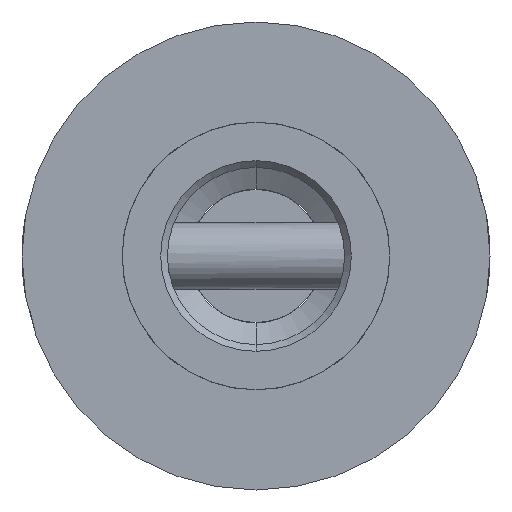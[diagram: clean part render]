
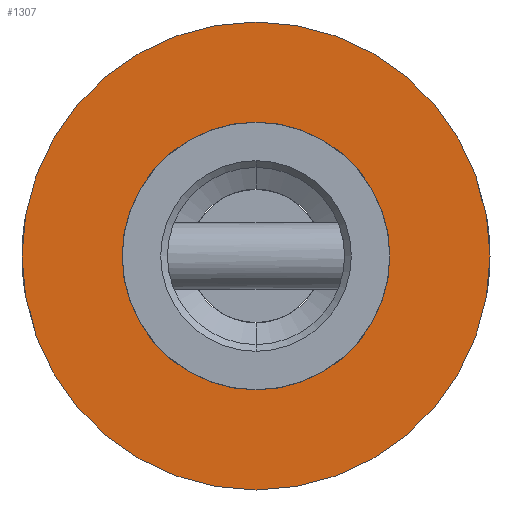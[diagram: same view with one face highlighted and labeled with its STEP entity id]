
A CAD part, front view. The second image highlights one B-rep face of the part: STEP entity #1307.
In plain terms, the highlighted planar face has unit normal (0, -1, 0).
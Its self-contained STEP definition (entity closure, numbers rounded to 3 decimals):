
#56 = ORIENTED_EDGE ( 'NONE', *, *, #1098, .T. ) ;
#95 = ORIENTED_EDGE ( 'NONE', *, *, #570, .T. ) ;
#262 = EDGE_LOOP ( 'NONE', ( #3117, #2212 ) ) ;
#570 = EDGE_CURVE ( 'NONE', #2315, #2578, #2762, .T. ) ;
#603 = DIRECTION ( 'NONE',  ( 0., 0., -1. ) ) ;
#619 = DIRECTION ( 'NONE',  ( 0., -1., 0. ) ) ;
#625 = CARTESIAN_POINT ( 'NONE',  ( 0., -400., 0. ) ) ;
#842 = DIRECTION ( 'NONE',  ( 0., -1., 0. ) ) ;
#864 = DIRECTION ( 'NONE',  ( 0., 0., -1. ) ) ;
#883 = PLANE ( 'NONE',  #1325 ) ;
#958 = CARTESIAN_POINT ( 'NONE',  ( 0., -400., 0. ) ) ;
#1008 = VERTEX_POINT ( 'NONE', #3125 ) ;
#1043 = AXIS2_PLACEMENT_3D ( 'NONE', #2603, #2595, #2574 ) ;
#1063 = CIRCLE ( 'NONE', #2382, 4.005 ) ;
#1098 = EDGE_CURVE ( 'NONE', #2578, #2315, #2643, .T. ) ;
#1161 = AXIS2_PLACEMENT_3D ( 'NONE', #625, #619, #603 ) ;
#1245 = FACE_OUTER_BOUND ( 'NONE', #3165, .T. ) ;
#1307 = ADVANCED_FACE ( 'NONE', ( #1980, #1245 ), #883, .T. ) ;
#1325 = AXIS2_PLACEMENT_3D ( 'NONE', #958, #842, #864 ) ;
#1373 = EDGE_CURVE ( 'NONE', #2311, #1008, #2606, .T. ) ;
#1648 = CARTESIAN_POINT ( 'NONE',  ( 0., -400., 7. ) ) ;
#1679 = DIRECTION ( 'NONE',  ( 0., 0., -1. ) ) ;
#1692 = DIRECTION ( 'NONE',  ( 0., -1., 0. ) ) ;
#1705 = CARTESIAN_POINT ( 'NONE',  ( 0., -400., 0. ) ) ;
#1980 = FACE_BOUND ( 'NONE', #262, .T. ) ;
#2200 = CARTESIAN_POINT ( 'NONE',  ( 0., -400., 4.005 ) ) ;
#2212 = ORIENTED_EDGE ( 'NONE', *, *, #1373, .F. ) ;
#2274 = DIRECTION ( 'NONE',  ( 0., 0., -1. ) ) ;
#2293 = DIRECTION ( 'NONE',  ( 0., -1., 0. ) ) ;
#2311 = VERTEX_POINT ( 'NONE', #2200 ) ;
#2315 = VERTEX_POINT ( 'NONE', #1648 ) ;
#2318 = CARTESIAN_POINT ( 'NONE',  ( 0., -400., 0. ) ) ;
#2382 = AXIS2_PLACEMENT_3D ( 'NONE', #1705, #1692, #1679 ) ;
#2574 = DIRECTION ( 'NONE',  ( 0., 0., -1. ) ) ;
#2578 = VERTEX_POINT ( 'NONE', #3215 ) ;
#2595 = DIRECTION ( 'NONE',  ( 0., -1., 0. ) ) ;
#2603 = CARTESIAN_POINT ( 'NONE',  ( 0., -400., 0. ) ) ;
#2606 = CIRCLE ( 'NONE', #1161, 4.005 ) ;
#2643 = CIRCLE ( 'NONE', #1043, 7. ) ;
#2762 = CIRCLE ( 'NONE', #2904, 7. ) ;
#2904 = AXIS2_PLACEMENT_3D ( 'NONE', #2318, #2293, #2274 ) ;
#3117 = ORIENTED_EDGE ( 'NONE', *, *, #3158, .F. ) ;
#3125 = CARTESIAN_POINT ( 'NONE',  ( 0., -400., -4.005 ) ) ;
#3158 = EDGE_CURVE ( 'NONE', #1008, #2311, #1063, .T. ) ;
#3165 = EDGE_LOOP ( 'NONE', ( #56, #95 ) ) ;
#3215 = CARTESIAN_POINT ( 'NONE',  ( 0., -400., -7. ) ) ;
